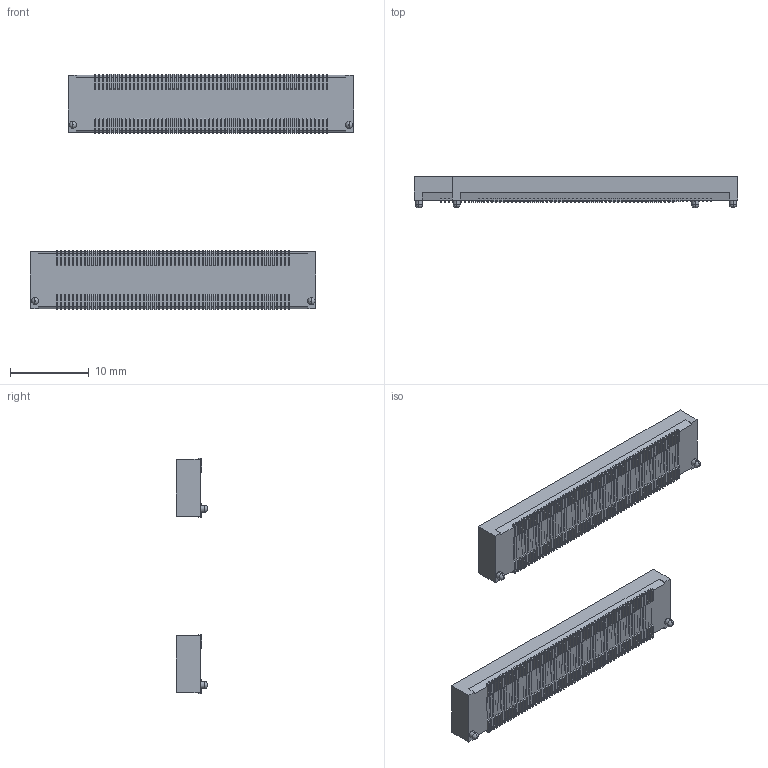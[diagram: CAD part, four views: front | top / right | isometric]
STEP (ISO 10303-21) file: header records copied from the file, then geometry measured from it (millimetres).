
FILE_DESCRIPTION (( 'STEP AP214' ), '1' );
FILE_NAME ('CONN14743.STEP', '2022-01-03T21:35:20', ( '' ), ( '' ), 'SwSTEP 2.0', 'SolidWorks 2020', '' );
FILE_SCHEMA (( 'AUTOMOTIVE_DESIGN' ));
Length unit declared in the file: millimetre
Products named in the file (2): BSH-060-01-L-D-A-TR; CONN14743
Assembly tree (2 placements, depth 2):
  CONN14743
    BSH-060-01-L-D-A-TR  x2
Bounding box: 41.08 x 4 x 29.89 mm (x, y, z)
Volume: 1089.6 mm3; surface area: 4167.5 mm2
Topology: 4 solids, 4 shells, 3944 faces, 11528 edges, 7364 vertices
Faces by surface type: plane 3928, torus 8, cylinder 8
Entity records: 63607 total; most frequent: ORIENTED_EDGE 11528, CARTESIAN_POINT 11423, DIRECTION 9734, EDGE_CURVE 5764, LINE 5748, VECTOR 5748, VERTEX_POINT 3682, AXIS2_PLACEMENT_3D 1993
